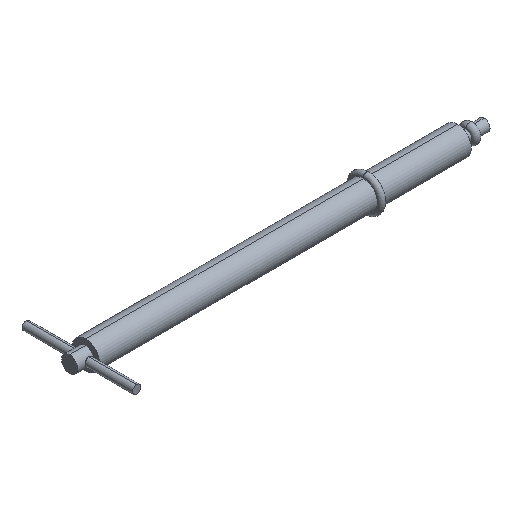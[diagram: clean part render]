
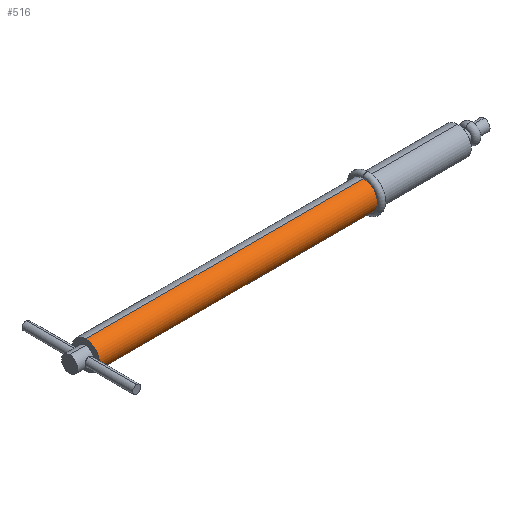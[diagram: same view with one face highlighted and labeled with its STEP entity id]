
A CAD part, isometric view. The second image highlights one B-rep face of the part: STEP entity #516.
In plain terms, the highlighted cylindrical face has radius 5 mm (diameter 10 mm), a partial arc.
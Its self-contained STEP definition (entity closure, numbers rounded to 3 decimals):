
#1 = ORIENTED_EDGE ( 'NONE', *, *, #712, .T. ) ;
#6 = CARTESIAN_POINT ( 'NONE',  ( 0., 0., 0. ) ) ;
#50 = CARTESIAN_POINT ( 'NONE',  ( 5.799, 0., 0. ) ) ;
#83 = VERTEX_POINT ( 'NONE', #509 ) ;
#133 = EDGE_LOOP ( 'NONE', ( #268, #723, #1, #263 ) ) ;
#135 = AXIS2_PLACEMENT_3D ( 'NONE', #6, #161, #136 ) ;
#136 = DIRECTION ( 'NONE',  ( 0., 0., 1. ) ) ;
#161 = DIRECTION ( 'NONE',  ( -1., 0., 0. ) ) ;
#162 = LINE ( 'NONE', #351, #663 ) ;
#204 = DIRECTION ( 'NONE',  ( 0., 0., 1. ) ) ;
#224 = FACE_OUTER_BOUND ( 'NONE', #133, .T. ) ;
#236 = DIRECTION ( 'NONE',  ( -1., 0., 0. ) ) ;
#242 = CARTESIAN_POINT ( 'NONE',  ( 0., 0., -5. ) ) ;
#263 = ORIENTED_EDGE ( 'NONE', *, *, #584, .F. ) ;
#268 = ORIENTED_EDGE ( 'NONE', *, *, #659, .F. ) ;
#274 = CIRCLE ( 'NONE', #655, 5. ) ;
#275 = DIRECTION ( 'NONE',  ( -1., 0., 0. ) ) ;
#286 = EDGE_CURVE ( 'NONE', #287, #83, #788, .T. ) ;
#287 = VERTEX_POINT ( 'NONE', #448 ) ;
#298 = CARTESIAN_POINT ( 'NONE',  ( 5.799, 0., -5. ) ) ;
#335 = VERTEX_POINT ( 'NONE', #463 ) ;
#351 = CARTESIAN_POINT ( 'NONE',  ( 0., 0., 5. ) ) ;
#371 = VECTOR ( 'NONE', #457, 1000. ) ;
#385 = CYLINDRICAL_SURFACE ( 'NONE', #135, 5. ) ;
#448 = CARTESIAN_POINT ( 'NONE',  ( 106.327, 0., -5. ) ) ;
#457 = DIRECTION ( 'NONE',  ( -1., 0., 0. ) ) ;
#463 = CARTESIAN_POINT ( 'NONE',  ( 5.799, 0., 5. ) ) ;
#509 = CARTESIAN_POINT ( 'NONE',  ( 106.327, 0., 5. ) ) ;
#516 = ADVANCED_FACE ( 'NONE', ( #224 ), #385, .T. ) ;
#528 = DIRECTION ( 'NONE',  ( 0., 0., 1. ) ) ;
#559 = CARTESIAN_POINT ( 'NONE',  ( 106.327, 0., 0. ) ) ;
#561 = LINE ( 'NONE', #242, #371 ) ;
#584 = EDGE_CURVE ( 'NONE', #619, #335, #274, .T. ) ;
#605 = DIRECTION ( 'NONE',  ( -1., 0., 0. ) ) ;
#619 = VERTEX_POINT ( 'NONE', #298 ) ;
#655 = AXIS2_PLACEMENT_3D ( 'NONE', #50, #605, #528 ) ;
#659 = EDGE_CURVE ( 'NONE', #287, #619, #561, .T. ) ;
#663 = VECTOR ( 'NONE', #275, 1000. ) ;
#712 = EDGE_CURVE ( 'NONE', #83, #335, #162, .T. ) ;
#723 = ORIENTED_EDGE ( 'NONE', *, *, #286, .T. ) ;
#788 = CIRCLE ( 'NONE', #832, 5. ) ;
#832 = AXIS2_PLACEMENT_3D ( 'NONE', #559, #236, #204 ) ;
